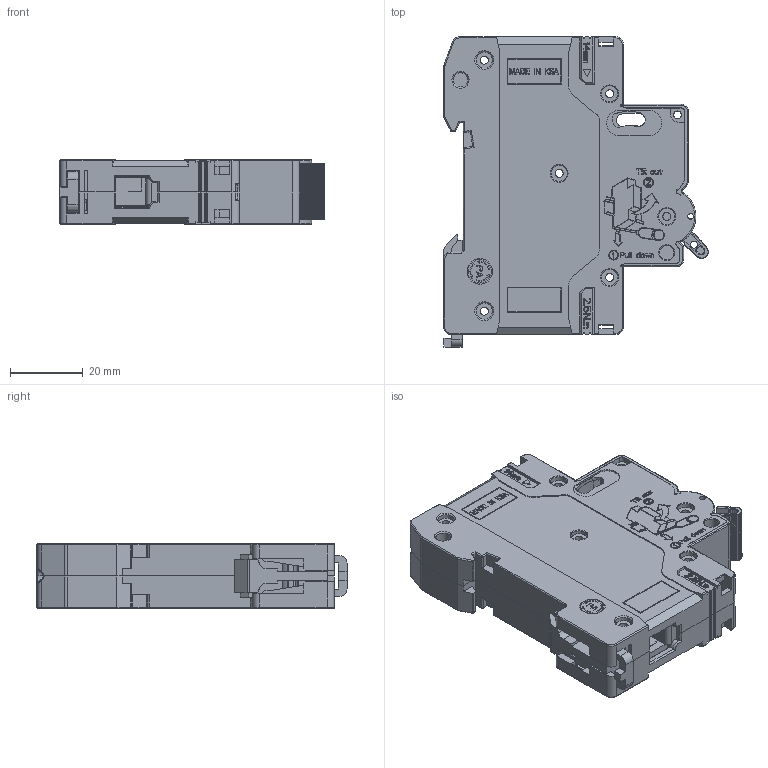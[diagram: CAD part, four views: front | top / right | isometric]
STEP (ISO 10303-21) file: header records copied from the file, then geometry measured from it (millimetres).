
FILE_DESCRIPTION(/* description */ (''),/* implementation_level */ '2;1');
FILE_NAME(/* name */ '1P.stp',/* time_stamp */ '2023-12-25T15:43:39+08:00',/* author */ (''),/* organization */ (''),/* preprocessor_version */ 'ST-DEVELOPER v16.7',/* originating_system */ 'SIEMENS PLM Software NX 12.0',/* authorisation */ '');
FILE_SCHEMA (('AP203_CONFIGURATION_CONTROLLED_3D_DESIGN_OF_MECHANICAL_PARTS_AND_ASSEMBLIES_MIM_LF { 1 0 10303 403 2 1 2}'));
Products named in the file (1): Admi6EB403BA7dj9
Bounding box: 72.97 x 85.5 x 17.8 mm (x, y, z)
Volume: 30602.1 mm3; surface area: 47250.4 mm2
Topology: 14 solids, 14 shells, 4624 faces, 13150 edges, 8666 vertices
Faces by surface type: plane 3710, cylinder 645, cone 91, bspline 73, extrusion 52, torus 44, sphere 9
Full cylindrical faces by diameter (mm): 1 x2, 1.15 x2, 1.2 x2, 1.6 x2, 1.9 x1, 2 x2, 2.1 x1, 2.2 x14, 2.4 x2, 2.7 x3, 2.719 x1, 2.9 x1, 3.3 x1, 3.4 x2, 3.5 x2, 3.6 x2, 3.7 x2, 4 x4, 4.5 x13, 4.7 x2, 5 x34, 6.2 x1, 6.4 x1, 6.5 x2, 7 x1, 9.4 x2
Entity records: 169995 total; most frequent: CARTESIAN_POINT 43996, ORIENTED_EDGE 25648, DIRECTION 22776, EDGE_CURVE 12824, VECTOR 10506, LINE 10454, VERTEX_POINT 8513, AXIS2_PLACEMENT_3D 6135
